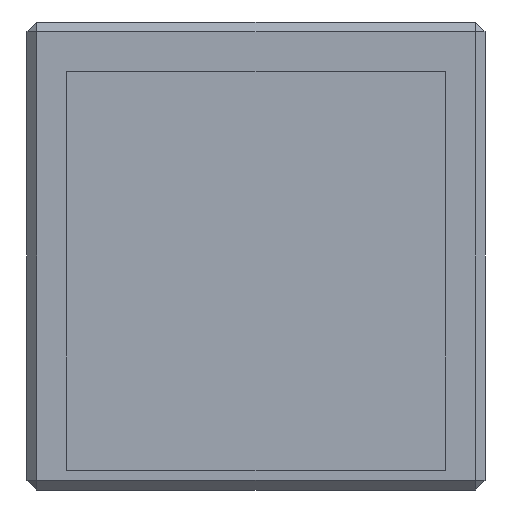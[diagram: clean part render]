
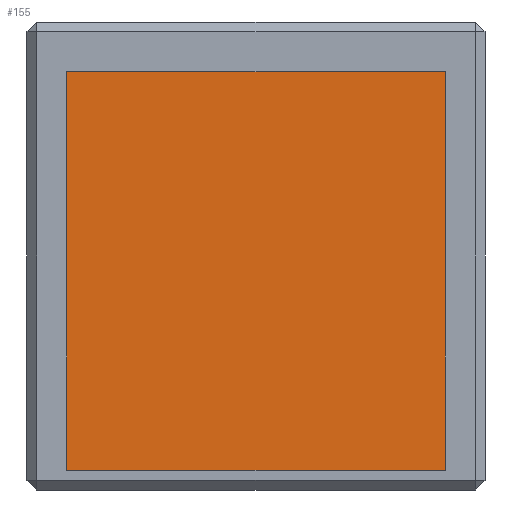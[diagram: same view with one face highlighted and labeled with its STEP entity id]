
A CAD part, left-side view. The second image highlights one B-rep face of the part: STEP entity #155.
In plain terms, the highlighted planar face has unit normal (-1, 0, 0).
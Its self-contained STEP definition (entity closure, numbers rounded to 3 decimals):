
#61 = DIRECTION ( 'NONE',  ( 0., 1., 0. ) ) ;
#67 = LINE ( 'NONE', #667, #699 ) ;
#75 = FACE_OUTER_BOUND ( 'NONE', #899, .T. ) ;
#155 = ADVANCED_FACE ( 'NONE', ( #75 ), #1367, .T. ) ;
#166 = VERTEX_POINT ( 'NONE', #1358 ) ;
#187 = VERTEX_POINT ( 'NONE', #1134 ) ;
#193 = EDGE_CURVE ( 'NONE', #166, #1019, #589, .T. ) ;
#250 = DIRECTION ( 'NONE',  ( 0., -1., 0. ) ) ;
#311 = EDGE_CURVE ( 'NONE', #1019, #187, #67, .T. ) ;
#355 = ORIENTED_EDGE ( 'NONE', *, *, #193, .T. ) ;
#378 = LINE ( 'NONE', #571, #541 ) ;
#497 = LINE ( 'NONE', #1483, #581 ) ;
#512 = DIRECTION ( 'NONE',  ( -1., 0., 0. ) ) ;
#540 = DIRECTION ( 'NONE',  ( 0., -1., 0. ) ) ;
#541 = VECTOR ( 'NONE', #61, 1000. ) ;
#571 = CARTESIAN_POINT ( 'NONE',  ( -33., 19., 42. ) ) ;
#581 = VECTOR ( 'NONE', #908, 1000. ) ;
#589 = LINE ( 'NONE', #893, #1598 ) ;
#641 = CARTESIAN_POINT ( 'NONE',  ( -33., 0., 0. ) ) ;
#667 = CARTESIAN_POINT ( 'NONE',  ( -33., 19., 2. ) ) ;
#699 = VECTOR ( 'NONE', #540, 1000. ) ;
#757 = CARTESIAN_POINT ( 'NONE',  ( -33., -19., 42. ) ) ;
#807 = VERTEX_POINT ( 'NONE', #757 ) ;
#880 = ORIENTED_EDGE ( 'NONE', *, *, #311, .T. ) ;
#893 = CARTESIAN_POINT ( 'NONE',  ( -33., 19., 2. ) ) ;
#899 = EDGE_LOOP ( 'NONE', ( #880, #1007, #1535, #355 ) ) ;
#908 = DIRECTION ( 'NONE',  ( 0., 0., 1. ) ) ;
#925 = CARTESIAN_POINT ( 'NONE',  ( -33., 19., 2. ) ) ;
#979 = AXIS2_PLACEMENT_3D ( 'NONE', #641, #512, #250 ) ;
#1007 = ORIENTED_EDGE ( 'NONE', *, *, #1508, .T. ) ;
#1019 = VERTEX_POINT ( 'NONE', #925 ) ;
#1134 = CARTESIAN_POINT ( 'NONE',  ( -33., -19., 2. ) ) ;
#1358 = CARTESIAN_POINT ( 'NONE',  ( -33., 19., 42. ) ) ;
#1367 = PLANE ( 'NONE',  #979 ) ;
#1483 = CARTESIAN_POINT ( 'NONE',  ( -33., -19., 2. ) ) ;
#1498 = DIRECTION ( 'NONE',  ( 0., 0., -1. ) ) ;
#1508 = EDGE_CURVE ( 'NONE', #187, #807, #497, .T. ) ;
#1535 = ORIENTED_EDGE ( 'NONE', *, *, #1581, .T. ) ;
#1581 = EDGE_CURVE ( 'NONE', #807, #166, #378, .T. ) ;
#1598 = VECTOR ( 'NONE', #1498, 1000. ) ;
